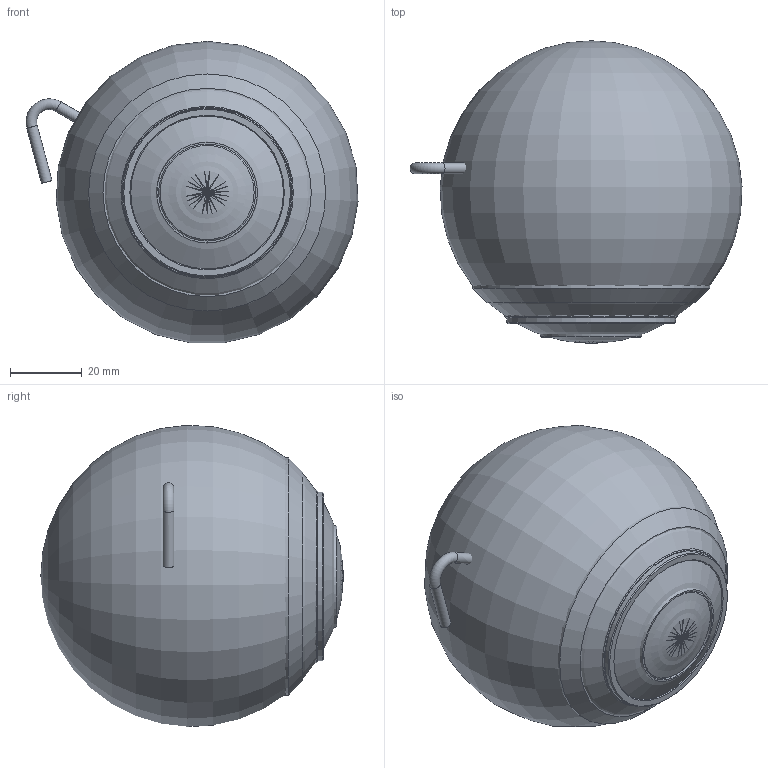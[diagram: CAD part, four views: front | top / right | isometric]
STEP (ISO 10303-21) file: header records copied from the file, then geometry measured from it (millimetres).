
FILE_DESCRIPTION(/* description */ ('Unknown'),/* implementation_level */ '2;1');
FILE_NAME(/* name */ 'Reference 3D-drawing of EL3Z0416UCS-MPWIR (Confidential_Tentative)',/* time_stamp */ '2020-09-01T10:56:32+09:00',/* author */ ('Unknown'),/* organization */ ('Unknown'),/* preprocessor_version */ 'ST-DEVELOPER v16.7',/* originating_system */ 'DEX',/* authorisation */ $);
FILE_SCHEMA (('AUTOMOTIVE_DESIGN {1 0 10303 214 3 1 1}'));
Length unit declared in the file: millimetre
Products named in the file (1): EL3Z0416UCS-MPWIR
Bounding box: 92.43 x 84.18 x 83.87 mm (x, y, z)
Surface area: 50785.9 mm2
Topology: 11 solids, 13 shells, 400 faces, 952 edges, 636 vertices
Faces by surface type: plane 222, cylinder 94, cone 52, torus 20, bspline 12
Full cylindrical faces by diameter (mm): 1.7 x3, 2 x10, 2.2 x1, 3 x2, 3.5 x3, 3.6 x4, 7.699 x1, 10.815 x1, 12.1 x1, 14.331 x1, 23.5 x1, 24.3 x1, 25.4 x1, 27 x1, 29.5 x1, 30.1 x1, 32 x1, 32.6 x1, 42.5 x1, 43 x1, 47 x1, 47.4 x1, 48 x1, 66 x1
Entity records: 14113 total; most frequent: CARTESIAN_POINT 2647, DIRECTION 1749, ORIENTED_EDGE 1632, EDGE_CURVE 816, AXIS2_PLACEMENT_3D 670, VERTEX_POINT 591, FACE_BOUND 561, EDGE_LOOP 559
